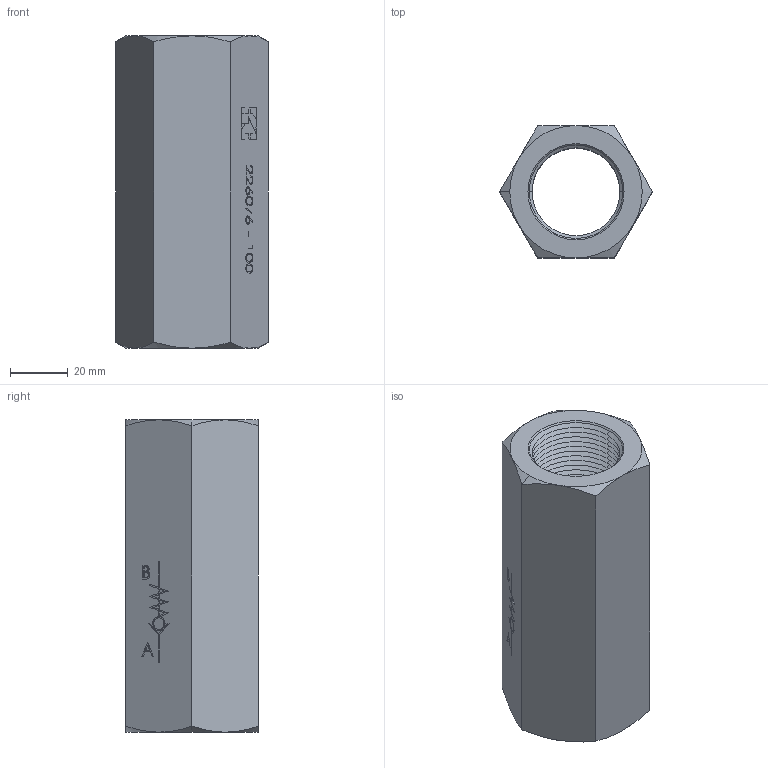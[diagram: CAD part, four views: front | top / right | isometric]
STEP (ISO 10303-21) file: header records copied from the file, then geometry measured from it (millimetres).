
FILE_DESCRIPTION (( 'STEP AP214' ), '1' );
FILE_NAME ('2260-6-100.STEP', '2015-04-08T19:29:37', ( '' ), ( '' ), 'SwSTEP 2.0', 'SolidWorks 2014', '' );
FILE_SCHEMA (( 'AUTOMOTIVE_DESIGN' ));
Length unit declared in the file: millimetre
Products named in the file (1): 2260-6-100
Bounding box: 53.12 x 46 x 108.5 mm (x, y, z)
Surface area: 26480.4 mm2 (no closed solid volume)
Topology: 0 solids, 6 shells, 297 faces, 832 edges, 530 vertices
Faces by surface type: plane 136, cone 96, bspline 54, cylinder 11
Entity records: 16749 total; most frequent: CARTESIAN_POINT 6302, ORIENTED_EDGE 1478, DIRECTION 1302, EDGE_CURVE 832, LINE 538, VECTOR 538, VERTEX_POINT 530, AXIS2_PLACEMENT_3D 382
